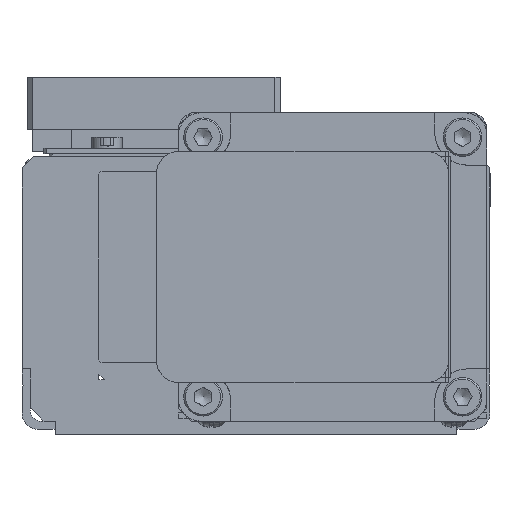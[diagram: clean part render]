
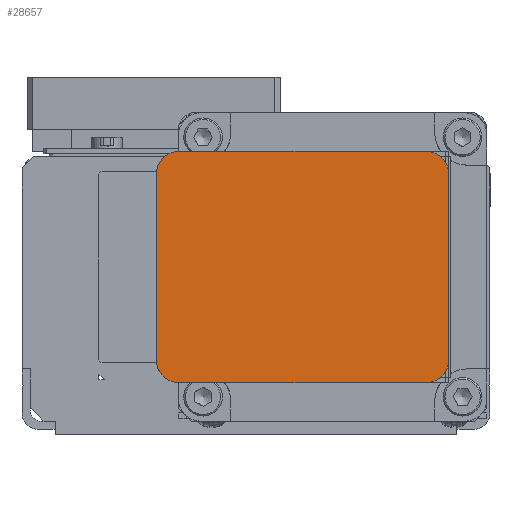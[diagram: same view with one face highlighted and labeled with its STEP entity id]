
A CAD part, left-side view. The second image highlights one B-rep face of the part: STEP entity #28657.
In plain terms, the highlighted planar face has unit normal (-1, 0, 0).
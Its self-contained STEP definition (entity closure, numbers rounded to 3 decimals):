
#28400=CARTESIAN_POINT('',(-161.5,-30.95,51.5));
#28401=VERTEX_POINT('',#28400);
#28408=CARTESIAN_POINT('',(-161.5,-34.95,47.5));
#28409=VERTEX_POINT('',#28408);
#28410=CARTESIAN_POINT('',(-161.5,-30.95,47.5));
#28411=DIRECTION('',(-1.0,0.0,0.0));
#28412=DIRECTION('',(0.0,-1.0,0.0));
#28413=AXIS2_PLACEMENT_3D('',#28410,#28411,#28412);
#28414=CIRCLE('',#28413,4.);
#28415=EDGE_CURVE('',#28409,#28401,#28414,.T.);
#28488=CARTESIAN_POINT('',(-161.5,-34.95,13.5));
#28489=VERTEX_POINT('',#28488);
#28496=CARTESIAN_POINT('',(-161.5,-30.95,9.5));
#28497=VERTEX_POINT('',#28496);
#28498=CARTESIAN_POINT('',(-161.5,-30.95,13.5));
#28499=DIRECTION('',(-1.0,0.0,0.0));
#28500=DIRECTION('',(0.0,0.0,-1.0));
#28501=AXIS2_PLACEMENT_3D('',#28498,#28499,#28500);
#28502=CIRCLE('',#28501,4.);
#28503=EDGE_CURVE('',#28497,#28489,#28502,.T.);
#28533=CARTESIAN_POINT('',(-161.5,18.05,47.5));
#28534=VERTEX_POINT('',#28533);
#28541=CARTESIAN_POINT('',(-161.5,14.05,51.5));
#28542=VERTEX_POINT('',#28541);
#28543=CARTESIAN_POINT('',(-161.5,14.05,47.5));
#28544=DIRECTION('',(-1.0,0.0,0.0));
#28545=DIRECTION('',(0.0,0.0,1.0));
#28546=AXIS2_PLACEMENT_3D('',#28543,#28544,#28545);
#28547=CIRCLE('',#28546,4.);
#28548=EDGE_CURVE('',#28542,#28534,#28547,.T.);
#28596=CARTESIAN_POINT('',(-161.5,14.05,9.5));
#28597=VERTEX_POINT('',#28596);
#28604=CARTESIAN_POINT('',(-161.5,18.05,13.5));
#28605=VERTEX_POINT('',#28604);
#28606=CARTESIAN_POINT('',(-161.5,14.05,13.5));
#28607=DIRECTION('',(-1.0,0.0,0.0));
#28608=DIRECTION('',(0.0,1.0,0.0));
#28609=AXIS2_PLACEMENT_3D('',#28606,#28607,#28608);
#28610=CIRCLE('',#28609,4.);
#28611=EDGE_CURVE('',#28605,#28597,#28610,.T.);
#28622=CARTESIAN_POINT('',(-161.5,18.05,30.5));
#28623=DIRECTION('',(-1.0,0.0,0.0));
#28624=DIRECTION('',(0.0,1.0,0.0));
#28625=AXIS2_PLACEMENT_3D('',#28622,#28623,#28624);
#28626=PLANE('',#28625);
#28627=ORIENTED_EDGE('',*,*,#28415,.T.);
#28628=CARTESIAN_POINT('',(-161.5,-30.95,51.5));
#28629=DIRECTION('',(0.0,1.0,0.0));
#28630=VECTOR('',#28629,45.0);
#28631=LINE('',#28628,#28630);
#28632=EDGE_CURVE('',#28401,#28542,#28631,.T.);
#28633=ORIENTED_EDGE('',*,*,#28632,.T.);
#28634=ORIENTED_EDGE('',*,*,#28548,.T.);
#28635=CARTESIAN_POINT('',(-161.5,18.05,13.5));
#28636=DIRECTION('',(0.0,0.0,1.0));
#28637=VECTOR('',#28636,34.0);
#28638=LINE('',#28635,#28637);
#28639=EDGE_CURVE('',#28605,#28534,#28638,.T.);
#28640=ORIENTED_EDGE('',*,*,#28639,.F.);
#28641=ORIENTED_EDGE('',*,*,#28611,.T.);
#28642=CARTESIAN_POINT('',(-161.5,14.05,9.5));
#28643=DIRECTION('',(0.0,-1.0,0.0));
#28644=VECTOR('',#28643,45.0);
#28645=LINE('',#28642,#28644);
#28646=EDGE_CURVE('',#28597,#28497,#28645,.T.);
#28647=ORIENTED_EDGE('',*,*,#28646,.T.);
#28648=ORIENTED_EDGE('',*,*,#28503,.T.);
#28649=CARTESIAN_POINT('',(-161.5,-34.95,47.5));
#28650=DIRECTION('',(0.0,0.0,-1.0));
#28651=VECTOR('',#28650,34.);
#28652=LINE('',#28649,#28651);
#28653=EDGE_CURVE('',#28409,#28489,#28652,.T.);
#28654=ORIENTED_EDGE('',*,*,#28653,.F.);
#28655=EDGE_LOOP('',(#28627,#28633,#28634,#28640,#28641,#28647,#28648,#28654));
#28656=FACE_OUTER_BOUND('',#28655,.T.);
#28657=ADVANCED_FACE('',(#28656),#28626,.T.);
